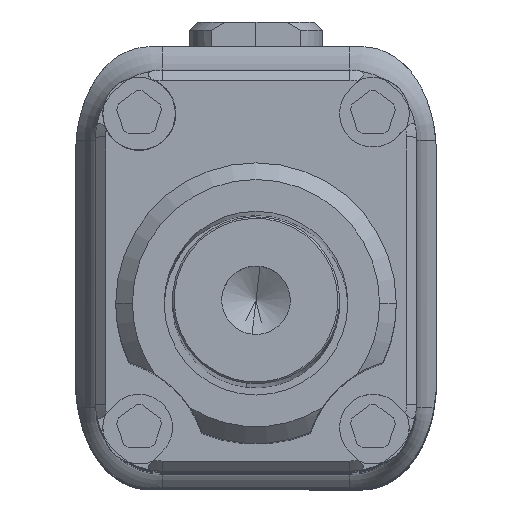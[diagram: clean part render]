
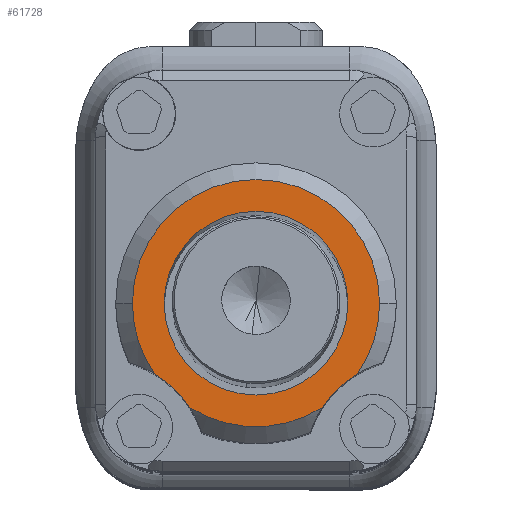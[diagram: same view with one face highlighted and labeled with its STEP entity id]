
A CAD part, top view. The second image highlights one B-rep face of the part: STEP entity #61728.
In plain terms, the highlighted planar face has unit normal (0, 0, 1) as drawn and (0, 0, -1) by its records, which use the part's own axes.
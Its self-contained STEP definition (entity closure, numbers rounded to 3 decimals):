
#76 = CARTESIAN_POINT ( 'NONE',  ( 3.038, -1.912, -33.5 ) ) ;
#774 = CARTESIAN_POINT ( 'NONE',  ( 2.75, 0.2, -33.5 ) ) ;
#1592 = VERTEX_POINT ( 'NONE', #39807 ) ;
#2929 = EDGE_LOOP ( 'NONE', ( #60266, #54104 ) ) ;
#3888 = AXIS2_PLACEMENT_3D ( 'NONE', #65600, #49968, #60830 ) ;
#3960 = CARTESIAN_POINT ( 'NONE',  ( -1.983, -2.924, -33.5 ) ) ;
#4405 = CARTESIAN_POINT ( 'NONE',  ( 0., 0.2, -33.5 ) ) ;
#4505 = VERTEX_POINT ( 'NONE', #21661 ) ;
#4995 = CIRCLE ( 'NONE', #60425, 2.75 ) ;
#5547 = DIRECTION ( 'NONE',  ( 0., 0., -1. ) ) ;
#5639 = CARTESIAN_POINT ( 'NONE',  ( 0., 0.2, -33.5 ) ) ;
#6206 = ORIENTED_EDGE ( 'NONE', *, *, #33682, .T. ) ;
#6289 = DIRECTION ( 'NONE',  ( -1., 0., 0. ) ) ;
#6416 = EDGE_CURVE ( 'NONE', #11773, #13313, #61496, .T. ) ;
#7448 = VERTEX_POINT ( 'NONE', #76 ) ;
#8992 = CARTESIAN_POINT ( 'NONE',  ( 3.7, 0.2, -33.5 ) ) ;
#11198 = DIRECTION ( 'NONE',  ( 0., 0., -1. ) ) ;
#11773 = VERTEX_POINT ( 'NONE', #774 ) ;
#13313 = VERTEX_POINT ( 'NONE', #32280 ) ;
#16068 = CARTESIAN_POINT ( 'NONE',  ( 4.667, -4.667, -33.5 ) ) ;
#16482 = CARTESIAN_POINT ( 'NONE',  ( 0., 0.2, -33.5 ) ) ;
#16534 = VERTEX_POINT ( 'NONE', #8992 ) ;
#18686 = AXIS2_PLACEMENT_3D ( 'NONE', #55726, #46173, #41063 ) ;
#19276 = PLANE ( 'NONE',  #18686 ) ;
#20037 = CARTESIAN_POINT ( 'NONE',  ( -4.667, -4.667, -33.5 ) ) ;
#20691 = ORIENTED_EDGE ( 'NONE', *, *, #60990, .T. ) ;
#20825 = CIRCLE ( 'NONE', #50134, 3.7 ) ;
#20843 = CARTESIAN_POINT ( 'NONE',  ( 0., 0.2, -33.5 ) ) ;
#21052 = DIRECTION ( 'NONE',  ( 0., 0., -1. ) ) ;
#21411 = ORIENTED_EDGE ( 'NONE', *, *, #56459, .F. ) ;
#21661 = CARTESIAN_POINT ( 'NONE',  ( -3.7, 0.2, -33.5 ) ) ;
#22129 = EDGE_CURVE ( 'NONE', #4505, #16534, #35524, .T. ) ;
#23738 = CIRCLE ( 'NONE', #40065, 3.7 ) ;
#24138 = EDGE_LOOP ( 'NONE', ( #34816, #30888, #21411, #20691, #46311, #6206 ) ) ;
#25422 = FACE_BOUND ( 'NONE', #2929, .T. ) ;
#25660 = VERTEX_POINT ( 'NONE', #3960 ) ;
#26315 = DIRECTION ( 'NONE',  ( -1., 0., 0. ) ) ;
#26516 = CARTESIAN_POINT ( 'NONE',  ( 0., 0.2, -33.5 ) ) ;
#28413 = CARTESIAN_POINT ( 'NONE',  ( 1.983, -2.924, -33.5 ) ) ;
#28965 = AXIS2_PLACEMENT_3D ( 'NONE', #5639, #47490, #57025 ) ;
#29328 = AXIS2_PLACEMENT_3D ( 'NONE', #20843, #5547, #40275 ) ;
#30888 = ORIENTED_EDGE ( 'NONE', *, *, #55041, .T. ) ;
#31876 = VERTEX_POINT ( 'NONE', #28413 ) ;
#32280 = CARTESIAN_POINT ( 'NONE',  ( -2.75, 0.2, -33.5 ) ) ;
#33682 = EDGE_CURVE ( 'NONE', #16534, #7448, #23738, .T. ) ;
#33766 = AXIS2_PLACEMENT_3D ( 'NONE', #20037, #56489, #41154 ) ;
#34621 = FACE_OUTER_BOUND ( 'NONE', #24138, .T. ) ;
#34816 = ORIENTED_EDGE ( 'NONE', *, *, #43153, .T. ) ;
#35524 = CIRCLE ( 'NONE', #28965, 3.7 ) ;
#38882 = EDGE_CURVE ( 'NONE', #13313, #11773, #4995, .T. ) ;
#39807 = CARTESIAN_POINT ( 'NONE',  ( -3.038, -1.912, -33.5 ) ) ;
#40065 = AXIS2_PLACEMENT_3D ( 'NONE', #26516, #11198, #62889 ) ;
#40275 = DIRECTION ( 'NONE',  ( -1., 0., 0. ) ) ;
#41063 = DIRECTION ( 'NONE',  ( -1., 0., 0. ) ) ;
#41154 = DIRECTION ( 'NONE',  ( -1., 0., 0. ) ) ;
#43153 = EDGE_CURVE ( 'NONE', #7448, #31876, #50409, .T. ) ;
#46173 = DIRECTION ( 'NONE',  ( 0., 0., -1. ) ) ;
#46257 = DIRECTION ( 'NONE',  ( -1., 0., 0. ) ) ;
#46311 = ORIENTED_EDGE ( 'NONE', *, *, #22129, .T. ) ;
#47490 = DIRECTION ( 'NONE',  ( 0., 0., -1. ) ) ;
#49968 = DIRECTION ( 'NONE',  ( 0., 0., -1. ) ) ;
#50134 = AXIS2_PLACEMENT_3D ( 'NONE', #16482, #62078, #6289 ) ;
#50409 = CIRCLE ( 'NONE', #54733, 3.2 ) ;
#54104 = ORIENTED_EDGE ( 'NONE', *, *, #38882, .F. ) ;
#54733 = AXIS2_PLACEMENT_3D ( 'NONE', #16068, #62682, #26315 ) ;
#55041 = EDGE_CURVE ( 'NONE', #31876, #25660, #58694, .T. ) ;
#55726 = CARTESIAN_POINT ( 'NONE',  ( 0., 0.2, -33.5 ) ) ;
#56459 = EDGE_CURVE ( 'NONE', #1592, #25660, #56593, .T. ) ;
#56489 = DIRECTION ( 'NONE',  ( 0., 0., -1. ) ) ;
#56593 = CIRCLE ( 'NONE', #33766, 3.2 ) ;
#57025 = DIRECTION ( 'NONE',  ( -1., 0., 0. ) ) ;
#58694 = CIRCLE ( 'NONE', #29328, 3.7 ) ;
#60266 = ORIENTED_EDGE ( 'NONE', *, *, #6416, .F. ) ;
#60425 = AXIS2_PLACEMENT_3D ( 'NONE', #4405, #21052, #46257 ) ;
#60830 = DIRECTION ( 'NONE',  ( -1., 0., 0. ) ) ;
#60990 = EDGE_CURVE ( 'NONE', #1592, #4505, #20825, .T. ) ;
#61496 = CIRCLE ( 'NONE', #3888, 2.75 ) ;
#61728 = ADVANCED_FACE ( 'NONE', ( #34621, #25422 ), #19276, .T. ) ;
#62078 = DIRECTION ( 'NONE',  ( 0., 0., -1. ) ) ;
#62682 = DIRECTION ( 'NONE',  ( 0., 0., 1. ) ) ;
#62889 = DIRECTION ( 'NONE',  ( -1., 0., 0. ) ) ;
#65600 = CARTESIAN_POINT ( 'NONE',  ( 0., 0.2, -33.5 ) ) ;
